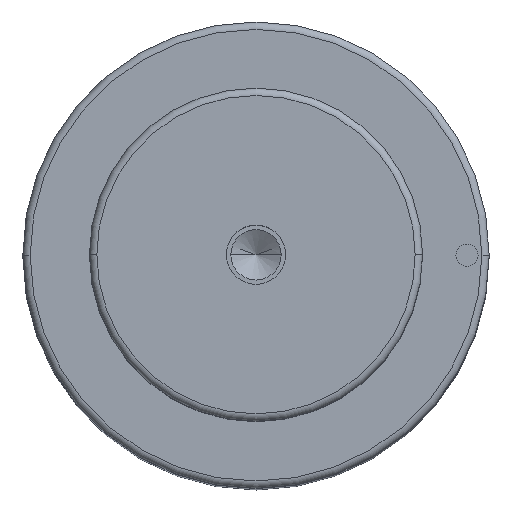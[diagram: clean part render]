
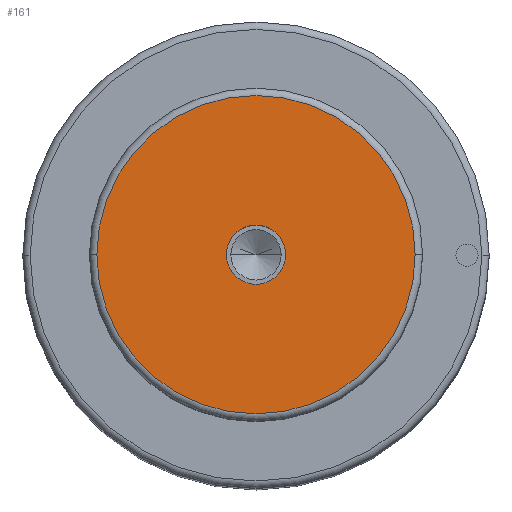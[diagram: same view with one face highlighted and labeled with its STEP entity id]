
A CAD part, top view. The second image highlights one B-rep face of the part: STEP entity #161.
In plain terms, the highlighted planar face has unit normal (0, 0, 1).
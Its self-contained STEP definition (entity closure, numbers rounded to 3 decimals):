
#104=PLANE('',#823);
#113=FACE_BOUND('',#265,.T.);
#114=FACE_BOUND('',#266,.T.);
#161=ADVANCED_FACE('',(#113,#114),#104,.T.);
#265=EDGE_LOOP('',(#405,#406));
#266=EDGE_LOOP('',(#407,#408));
#323=CIRCLE('',#817,4.);
#324=CIRCLE('',#819,4.);
#325=CIRCLE('',#821,21.5);
#326=CIRCLE('',#822,21.5);
#405=ORIENTED_EDGE('',*,*,#649,.F.);
#406=ORIENTED_EDGE('',*,*,#650,.F.);
#407=ORIENTED_EDGE('',*,*,#648,.T.);
#408=ORIENTED_EDGE('',*,*,#646,.T.);
#582=VERTEX_POINT('',#1204);
#583=VERTEX_POINT('',#1206);
#584=VERTEX_POINT('',#1212);
#585=VERTEX_POINT('',#1213);
#646=EDGE_CURVE('',#583,#582,#323,.T.);
#648=EDGE_CURVE('',#582,#583,#324,.T.);
#649=EDGE_CURVE('',#584,#585,#325,.T.);
#650=EDGE_CURVE('',#585,#584,#326,.T.);
#817=AXIS2_PLACEMENT_3D('',#1205,#947,#948);
#819=AXIS2_PLACEMENT_3D('',#1209,#952,#953);
#821=AXIS2_PLACEMENT_3D('',#1211,#956,#957);
#822=AXIS2_PLACEMENT_3D('',#1214,#958,#959);
#823=AXIS2_PLACEMENT_3D('',#1215,#960,#961);
#947=DIRECTION('',(0.,0.,-1.));
#948=DIRECTION('',(0.,1.,0.));
#952=DIRECTION('',(0.,0.,-1.));
#953=DIRECTION('',(0.,-1.,0.));
#956=DIRECTION('',(0.,0.,-1.));
#957=DIRECTION('',(0.,1.,0.));
#958=DIRECTION('',(0.,0.,-1.));
#959=DIRECTION('',(0.,-1.,0.));
#960=DIRECTION('',(0.,0.,1.));
#961=DIRECTION('',(0.,-1.,0.));
#1204=CARTESIAN_POINT('',(-4.,0.,165.));
#1205=CARTESIAN_POINT('',(0.,0.,165.));
#1206=CARTESIAN_POINT('',(4.,0.,165.));
#1209=CARTESIAN_POINT('',(0.,0.,165.));
#1211=CARTESIAN_POINT('',(0.,0.,165.));
#1212=CARTESIAN_POINT('',(21.5,0.,165.));
#1213=CARTESIAN_POINT('',(-21.5,0.,165.));
#1214=CARTESIAN_POINT('',(0.,0.,165.));
#1215=CARTESIAN_POINT('',(0.,0.,165.));
